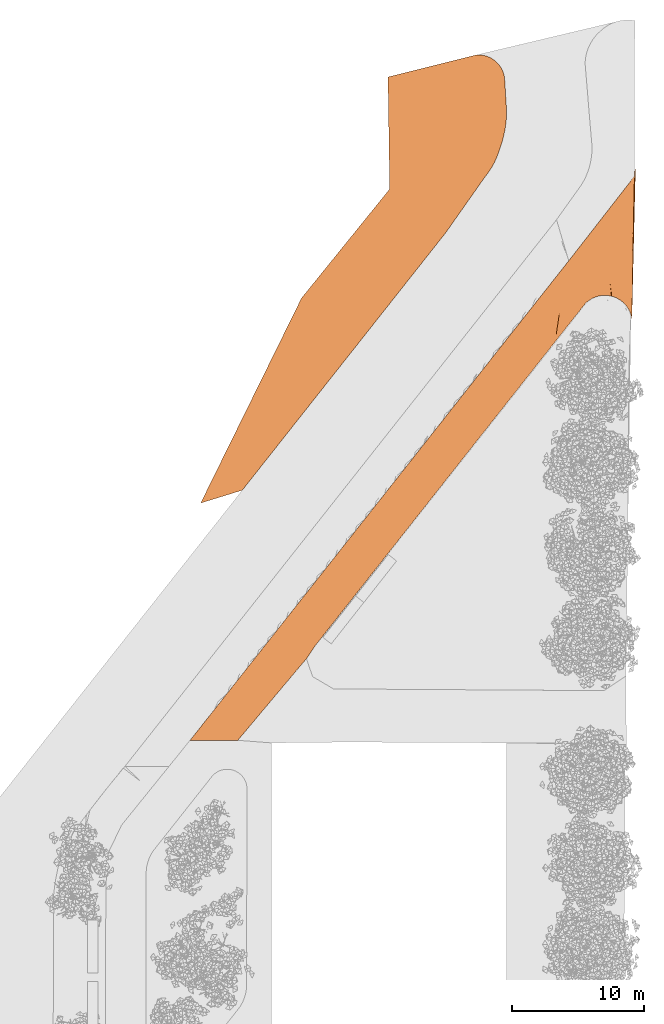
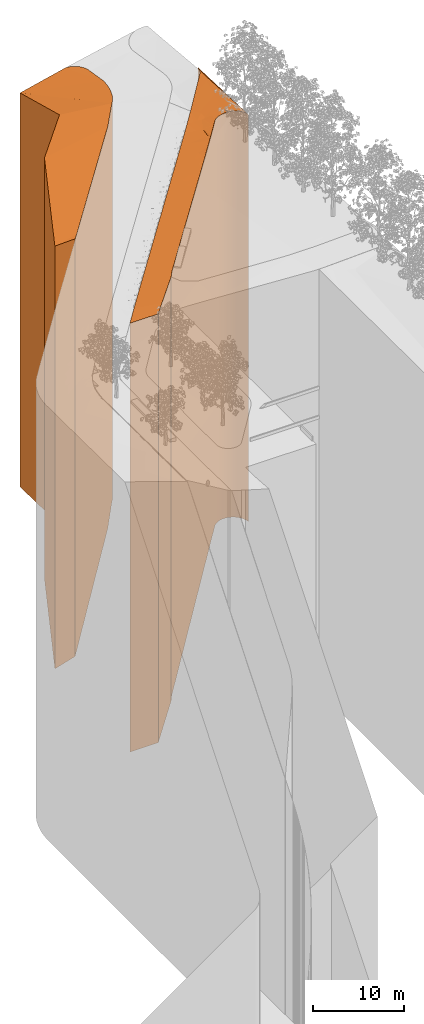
# One storey, part 68 of 69: 2 proxies.
"""IFC2X3 building model written with IfcOpenShell, lengths in millimetres."""

from ifc_helpers import new_model, entity, si_unit, converted_unit, derived_unit, money_unit, direction, frame, origin_with_axes, place, context, subcontext, project, spatial, faceted_brep, material, type_object, element, save


model = new_model("IFC2X3")

# Units and contexts
model_context = context("Model", 3, precision=0.01, world=origin_with_axes(), true_north=direction((0.0, 1.0)))
body_context = subcontext(model_context, "Body", "Model", "MODEL_VIEW")
ifc_project = project(units=[si_unit("LENGTHUNIT", "METRE", prefix="MILLI"), si_unit("AREAUNIT", "SQUARE_METRE"), si_unit("VOLUMEUNIT", "CUBIC_METRE"), converted_unit("PLANEANGLEUNIT", "DEGREE", entity("IfcPlaneAngleMeasure", 0.0174532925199), si_unit("PLANEANGLEUNIT", "RADIAN"), dimensions=[0, 0, 0, 0, 0, 0, 0]), si_unit("SOLIDANGLEUNIT", "STERADIAN"), money_unit("EUR"), converted_unit("TIMEUNIT", "Year", entity("IfcTimeMeasure", 31556926.0), si_unit("TIMEUNIT", "SECOND"), dimensions=[0, 0, 1, 0, 0, 0, 0]), si_unit("MASSUNIT", "GRAM", prefix="KILO"), si_unit("THERMODYNAMICTEMPERATUREUNIT", "DEGREE_CELSIUS"), si_unit("LUMINOUSINTENSITYUNIT", "LUMEN"), si_unit("ENERGYUNIT", "JOULE", prefix="MEGA"), derived_unit("THERMALCONDUCTANCEUNIT", [(si_unit("POWERUNIT", "WATT"), 1), (si_unit("LENGTHUNIT", "METRE"), -1), (si_unit("THERMODYNAMICTEMPERATUREUNIT", "KELVIN"), -1)]), derived_unit("SPECIFICHEATCAPACITYUNIT", [(si_unit("ENERGYUNIT", "JOULE"), 1), (si_unit("MASSUNIT", "GRAM", prefix="KILO"), -1), (si_unit("THERMODYNAMICTEMPERATUREUNIT", "KELVIN"), -1)]), derived_unit("MASSDENSITYUNIT", [(si_unit("MASSUNIT", "GRAM", prefix="KILO"), 1), (si_unit("VOLUMEUNIT", "CUBIC_METRE"), -1)])], contexts=[model_context])

# Site, building, storey
site_placement = place(None, origin_with_axes())
site = spatial("IfcSite", under=ifc_project, at=site_placement, Name="Puškini 31, Narva", CompositionType="ELEMENT")
building_placement = place(site_placement, origin_with_axes())
building = spatial("IfcBuilding", under=site, at=building_placement, Name="Narva Riigigümnaasium", CompositionType="ELEMENT")
storey_placement = place(building_placement, origin_with_axes())
storey = spatial("IfcBuildingStorey", under=building, at=storey_placement, Name="1.korrus 0.00", CompositionType="ELEMENT", Elevation=0.0)

# Proxies
ifc_material_1 = material(Name="Roheala")
building_element_proxy_type_1 = type_object("IfcBuildingElementProxyType", Name="Roheala", PredefinedType="NOTDEFINED")
proxy_1_placement = place(storey_placement, frame((31611.8707437, 272619.101305, -61100.0), z_axis=(0.0, 0.0, 1.0), x_axis=(1.0, 0.0, 0.0)))
element("IfcBuildingElementProxy", 1, at=proxy_1_placement, inside=storey, type_object=building_element_proxy_type_1, material=ifc_material_1, Name="Roheala", context=body_context, shape_type="Brep", body=[
    faceted_brep([(7643.01042222, 15534.0780529, 56800.0), (0.0, 0.0, 57000.0), (3923.36030008, 1946.41217077, 56100.0), (0.0, 0.0, 0.0), (7643.01042222, 15534.0780529, 0.0), (3154.60672992, 973.538749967, 56300.0), (18571.797567, 20484.310174, 54200.0), (3154.60672992, 973.538749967, 0.0), (14326.02825, 23800.2166216, 55250.0), (14326.02825, 23800.2166216, 0.0), (14198.3945724, 32290.449543, 0.0), (20873.4455689, 33961.6074874, 0.0), (21013.8541657, 33970.5579221, 0.0), (21156.6271995, 33968.2335378, 0.0), (21298.8706442, 33955.7297641, 0.0), (21439.85966, 33933.1103174, 0.0), (21578.8757991, 33900.4904613, 0.0), (21715.2106671, 33858.036419, 0.0), (21848.1695328, 33805.9645266, 0.0), (21977.0748683, 33744.5401306, 0.0), (22101.2698015, 33674.0762355, 0.0), (22220.1214635, 33594.9319092, 0.0), (22333.0242136, 33507.5104532, 0.0), (22439.4027251, 33412.257347, 0.0), (22538.7149175, 33309.6579787, 0.0), (22630.4547187, 33200.2351712, 0.0), (22714.1546438, 33084.5465179, 0.0), (22789.3881769, 32963.1815418, 0.0), (22855.7719454, 32836.7586909, 0.0), (22912.9676727, 32705.9221871, 0.0), (22960.6839026, 32571.3387433, 0.0), (22998.677484, 32433.6941658, 0.0), (23026.7548104, 32293.6898599, 0.0), (23035.7638083, 32222.8645576, 0.0), (23198.097869, 29565.9978145, 0.0), (23192.174912, 29410.211524, 0.0), (23170.6462846, 29108.5821718, 0.0), (23139.1039228, 28807.8350565, 0.0), (23097.5826837, 28508.3025297, 0.0), (23046.1284518, 28210.3156006, 0.0), (22984.7980885, 27914.2035704, 0.0), (22913.6593691, 27620.2936684, 0.0), (22832.790908, 27328.9106903, 0.0), (22742.2820718, 27040.3766395, 0.0), (22642.2328807, 26755.0103709, 0.0), (22587.4933891, 26614.0688049, 0.0), (22554.9318008, 26511.9086031, 0.0), (22473.04597, 26288.1630354, 0.0), (22381.800597, 26068.0683961, 0.0), (22281.3579127, 25852.0160055, 0.0), (22171.8965005, 25640.3899967, 0.0), (22053.6109789, 25433.5666332, 0.0), (21926.7116551, 25231.9136393, 0.0), (21791.4241515, 25035.7895467, 0.0), (21647.9890044, 24845.5430568, 0.0), (21572.3251203, 24753.5277389, 0.0), (18571.797567, 20484.310174, 0.0), (3923.36030008, 1946.41217077, 0.0), (14198.3945724, 32290.449543, 53102.6640715), (20873.4455689, 33961.6074874, 53100.0), (21013.8541657, 33970.5579221, 53098.1292942), (21156.6271995, 33968.2335378, 53096.0980664), (21298.8706442, 33955.7297641, 53093.9593277), (21439.85966, 33933.1103174, 53091.7239767), (21578.8757991, 33900.4904613, 53089.403404), (21715.2106671, 33858.036419, 53087.009435), (21848.1695328, 33805.9645266, 53084.5542686), (21977.0748683, 33744.5401306, 53082.0504158), (22101.2698015, 33674.0762355, 53079.5106358), (22220.1214635, 33594.9319092, 53076.9478706), (22333.0242136, 33507.5104532, 53074.3751794), (22439.4027251, 33412.257347, 53071.8056723), (22538.7149175, 33309.6579787, 53069.2524426), (22630.4547187, 33200.2351712, 53066.7285012), (22714.1546438, 33084.5465179, 53064.2467095), (22789.3881769, 32963.1815418, 53061.8197141), (22855.7719454, 32836.7586909, 53059.4598824), (22912.9676727, 32705.9221871, 53057.1792396), (22960.6839026, 32571.3387433, 53054.9894073), (22998.677484, 32433.6941658, 53052.9015443), (23026.7548104, 32293.6898599, 53050.9262901), (23035.7638083, 32222.8645576, 53050.0), (23198.097869, 29565.9978145, 53300.0), (23192.174912, 29410.211524, 53312.7517552), (23170.6462846, 29108.5821718, 53337.6103852), (23139.1039228, 28807.8350565, 53362.5655883), (23097.5826837, 28508.3025297, 53387.5897867), (23046.1284518, 28210.3156006, 53412.6553267), (22984.7980885, 27914.2035704, 53437.7345086), (22913.6593691, 27620.2936684, 53462.7996178), (22832.790908, 27328.9106903, 53487.8229551), (22742.2820718, 27040.3766395, 53512.7768677), (22642.2328807, 26755.0103709, 53537.6337792), (22587.4933891, 26614.0688049, 53550.0), (22554.9318008, 26511.9086031, 53557.4505727), (22473.04597, 26288.1630354, 53574.1267439), (22381.800597, 26068.0683961, 53590.8933658), (22281.3579127, 25852.0160055, 53607.7206281), (22171.8965005, 25640.3899967, 53624.5786125), (22053.6109789, 25433.5666332, 53641.4373461), (21926.7116551, 25231.9136393, 53658.2668548), (21791.4241515, 25035.7895467, 53675.0372161), (21647.9890044, 24845.5430568, 53691.7186131), (21572.3251203, 24753.5277389, 53700.0)], [[[0, 1, 2]], [[3, 1, 0, 4]], [[5, 2, 1]], [[2, 6, 0]], [[7, 5, 1, 3]], [[4, 0, 8, 9]], [[9, 10, 11, 12, 13, 14, 15, 16, 17, 18, 19, 20, 21, 22, 23, 24, 25, 26, 27, 28, 29, 30, 31, 32, 33, 34, 35, 36, 37, 38, 39, 40, 41, 42, 43, 44, 45, 46, 47, 48, 49, 50, 51, 52, 53, 54, 55, 56, 57, 7, 3, 4]], [[57, 2, 5, 7]], [[56, 6, 2, 57]], [[8, 0, 6]], [[9, 8, 58, 10]], [[10, 58, 59, 11]], [[11, 59, 60, 12]], [[12, 60, 61, 13]], [[13, 61, 62, 14]], [[14, 62, 63, 15]], [[15, 63, 64, 16]], [[16, 64, 65, 17]], [[17, 65, 66, 18]], [[18, 66, 67, 19]], [[19, 67, 68, 20]], [[20, 68, 69, 21]], [[21, 69, 70, 22]], [[22, 70, 71, 23]], [[23, 71, 72, 24]], [[24, 72, 73, 25]], [[25, 73, 74, 26]], [[26, 74, 75, 27]], [[27, 75, 76, 28]], [[28, 76, 77, 29]], [[29, 77, 78, 30]], [[30, 78, 79, 31]], [[31, 79, 80, 32]], [[32, 80, 81, 33]], [[33, 81, 82, 34]], [[34, 82, 83, 35]], [[35, 83, 84, 36]], [[36, 84, 85, 37]], [[37, 85, 86, 38]], [[38, 86, 87, 39]], [[39, 87, 88, 40]], [[40, 88, 89, 41]], [[41, 89, 90, 42]], [[42, 90, 91, 43]], [[43, 91, 92, 44]], [[44, 92, 93, 45]], [[45, 93, 94, 46]], [[46, 94, 95, 47]], [[47, 95, 96, 48]], [[48, 96, 97, 49]], [[49, 97, 98, 50]], [[50, 98, 99, 51]], [[51, 99, 100, 52]], [[52, 100, 101, 53]], [[53, 101, 102, 54]], [[54, 102, 103, 55]], [[55, 103, 6, 56]], [[6, 103, 8]], [[8, 103, 58]], [[59, 58, 82]], [[81, 80, 79, 78, 77, 76, 75, 74, 73, 72, 71, 70, 69, 68, 67, 66, 65, 64, 63, 62, 61, 60, 59]], [[82, 81, 59]], [[83, 82, 58]], [[84, 83, 58]], [[85, 84, 58]], [[86, 85, 58]], [[87, 86, 58]], [[88, 87, 58]], [[88, 58, 89]], [[89, 58, 90]], [[90, 58, 91]], [[91, 58, 92]], [[92, 58, 93]], [[95, 94, 93, 96]], [[96, 58, 97]], [[97, 58, 98]], [[98, 58, 99]], [[99, 58, 100]], [[101, 100, 103, 102]], [[100, 58, 103]], [[93, 58, 96]]]),
])
ifc_material_2 = material(Name="Sillutiskivi")
building_element_proxy_type_2 = type_object("IfcBuildingElementProxyType", Name="Sillutiskivi", PredefinedType="NOTDEFINED")
proxy_2_placement = place(storey_placement, frame((30794.9124961, 254614.017781, -61100.0), z_axis=(0.0, 0.0, 1.0), x_axis=(1.0, 0.0, 0.0)))
element("IfcBuildingElementProxy", 2, at=proxy_2_placement, inside=storey, type_object=building_element_proxy_type_2, material=ifc_material_2, Name="Kergliiklustee", context=body_context, shape_type="Brep", body=[
    faceted_brep([(21443.2539943, 27165.8205003, 55100.0), (20700.1498158, 26224.67833, 55200.0), (21687.0737376, 25833.8122749, 55200.0), (23892.3424384, 26195.8718359, 55100.0), (0.0, 7.91829963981, 0.0), (0.0, 7.91829963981, 57800.0), (596.991249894, 764.008302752, 57800.0), (1856.32699617, 2358.95825971, 57700.0), (2865.64953712, 3637.26624708, 57600.0), (3608.75371554, 4578.40841737, 57500.0), (4351.85789397, 5519.55058769, 57400.0), (5094.96207239, 6460.69275798, 57300.0), (5838.06625082, 7401.83492829, 57200.0), (6581.17042865, 8342.97709784, 57100.0), (7324.27460708, 9284.11926816, 57000.0), (8067.37878552, 10225.2614385, 56900.0), (8810.48296393, 11166.4036088, 56800.0), (9553.58714236, 12107.5457791, 56700.0), (10296.6913202, 13048.6879486, 56600.0), (11039.7954986, 13989.8301189, 56500.0), (11782.899677, 14930.9722892, 56400.0), (12526.0038555, 15872.1144595, 56300.0), (13269.1080333, 16813.2566291, 56200.0), (14012.2122117, 17754.3987994, 56100.0), (14755.3163902, 18695.5409697, 56000.0), (15498.4205686, 19636.68314, 55900.0), (16241.524747, 20577.8253103, 55800.0), (16984.6289243, 21518.9674792, 55700.0), (17727.7331027, 22460.1096495, 55600.0), (18470.8372811, 23401.2518198, 55500.0), (19213.9414596, 24342.3939901, 55400.0), (19957.045638, 25283.5361604, 55300.0), (22186.3581727, 28106.9626706, 55000.0), (22929.4623511, 29048.1048409, 54900.0), (23672.5665289, 29989.2470104, 54800.0), (24415.6707074, 30930.3891807, 54700.0), (25158.7748858, 31871.5313511, 54600.0), (25918.9637414, 32834.3112817, 54500.0), (27128.4703228, 34366.1525525, 54400.0), (28713.7542267, 36373.9161706, 54300.0), (28713.7542267, 36373.9161706, 0.0), (21731.2349218, 24580.8777768, 55300.0), (21740.8182236, 24577.0823605, 55300.0), (23599.9572177, 25056.1865733, 55200.0), (23923.2960831, 26183.612807, 55100.0), (24021.6234195, 27380.1154716, 55000.0), (3613.50883325, 0.0, 0.0), (3613.50883325, 0.0, 57800.0), (3726.95734352, 135.108138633, 57800.0), (4124.72200244, 1903.17249305, 57700.0), (6497.33101046, 3434.40249308, 57500.0), (5718.83582811, 2507.27674439, 57600.0), (7257.86005224, 4368.64363719, 57400.0), (7999.69551734, 5310.28827454, 57300.0), (7290.3634443, 6826.66022292, 57200.0), (8999.17883821, 7385.33751788, 57100.0), (10225.2019104, 8135.22218689, 57000.0), (9005.94701065, 7382.65701909, 57100.0), (9483.36644615, 7193.57754943, 57100.0), (10967.0373752, 9076.86682523, 56900.0), (11708.87284, 10018.5114626, 56800.0), (12450.7083041, 10960.1560992, 56700.0), (12735.2842804, 12082.8959654, 56600.0), (12833.6116164, 13279.3986301, 56500.0), (12931.938953, 14475.9012956, 56400.0), (14291.2809682, 15172.985694, 56300.0), (14296.6918528, 15170.8427414, 56300.0), (14502.9637535, 16324.5945264, 56200.0), (16445.8886028, 16790.5539974, 56100.0), (16464.6215463, 16783.1349131, 56100.0), (16562.9488849, 17979.6375775, 56000.0), (16661.276221, 19176.1402421, 55900.0), (18011.2676476, 19876.9278926, 55800.0), (18018.7550379, 19873.962551, 55800.0), (18095.0187462, 21079.2034006, 55700.0), (20169.1474887, 21493.2002561, 55600.0), (20193.9588147, 21483.3738596, 55600.0), (20292.2861514, 22679.8765251, 55500.0), (20390.6134893, 23876.3791896, 55400.0), (25011.7983281, 28223.4065719, 54900.0), (24218.2780936, 29773.1208007, 54800.0), (25279.1287215, 30588.4211522, 54700.0), (27615.4735005, 30898.568718, 54600.0), (26143.0436405, 32782.2935653, 54500.0), (26142.678835, 32782.3782515, 54500.0), (27847.254833, 34285.0015881, 54400.0), (30705.4237025, 38933.6969241, 54234.4630377), (32697.0931781, 41493.4776773, 54100.0), (32697.0931781, 41493.4776773, 0.0), (33346.0962454, 42327.6048161, 0.0), (33393.3066972, 42401.0434695, 0.0), (33479.1088794, 42553.1165961, 0.0), (33556.007314, 42709.8803707, 0.0), (33623.746552, 42870.81404, 0.0), (33682.1015707, 43035.3829985, 0.0), (33730.8785204, 43203.0405645, 0.0), (33769.9153691, 43373.2297967, 0.0), (33782.277642, 43446.3671972, 0.0), (33501.7560523, 31895.284491, 0.0), (33494.2091104, 31967.0166304, 0.0), (33469.1444322, 32109.0785414, 0.0), (33434.2310723, 32249.0459732, 0.0), (33389.6391251, 32386.2370184, 0.0), (33335.5858382, 32519.9832961, 0.0), (33272.3345536, 32649.633208, 0.0), (33200.1934253, 32774.5551126, 0.0), (33119.5139176, 32894.140403, 0.0), (33030.689093, 33007.8064717, 0.0), (32934.151697, 33114.999549, 0.0), (32883.3134058, 33164.0825154, 0.0), (32831.4590315, 33214.2181317, 0.0), (32721.0083445, 33307.010752, 0.0), (32604.3538239, 33391.8726837, 0.0), (32482.0637987, 33468.3904881, 0.0), (32354.7340536, 33536.1913779, 0.0), (32222.9849264, 33594.9450342, 0.0), (32087.4582856, 33644.365215, 0.0), (31948.8144033, 33684.2111501, 0.0), (31807.7287386, 33714.2887142, 0.0), (31664.8886468, 33734.4513725, 0.0), (31520.9900302, 33744.6008943, 0.0), (31376.7339486, 33744.6878324, 0.0), (31232.823203, 33734.7117632, 0.0), (31089.9589123, 33714.721289, 0.0), (31010.621294, 33697.8875896, 0.0), (30940.1260409, 33682.6273748, 0.0), (30801.6079782, 33642.3462908, 0.0), (30666.2372049, 33592.5007979, 0.0), (30534.6732338, 33533.3337384, 0.0), (30407.5570313, 33465.1333681, 0.0), (30285.5078949, 33388.2319525, 0.0), (30169.1204356, 33303.0041475, 0.0), (30139.1278574, 33277.3078702, 0.0), (30083.3195718, 33231.6144339, 0.0), (29963.799767, 33115.9983735, 0.0), (29304.4028752, 32280.8716701, 0.0), (13255.8026044, 11955.3062844, 0.0), (9488.35203977, 7183.82705909, 0.0), (8834.81261237, 6207.36700037, 0.0), (8371.63900237, 5666.55400751, 0.0), (22087.6083552, 23140.7955004, 55400.0), (23594.520205, 25049.3005923, 55200.0), (25074.5704043, 26923.7853818, 55000.0), (8371.63900237, 5666.55400751, 57259.706256), (4940.34064627, 1580.15099632, 57700.0), (8834.81261237, 6207.36700037, 57200.0), (9488.35203977, 7183.82705909, 57100.0), (13255.8026044, 11955.3062844, 56600.0), (13992.63489, 12888.5049776, 56500.0), (14728.843506, 13820.9137926, 56400.0), (15464.7094275, 14752.8885848, 56300.0), (16200.8639904, 15685.2289416, 56200.0), (16936.509897, 16616.9250848, 56100.0), (17672.9002054, 17549.5640134, 56000.0), (18408.9862571, 18481.8176007, 55900.0), (19881.0991074, 20346.2497312, 55700.0), (21353.5208838, 22211.0731168, 55500.0), (26558.7577887, 28803.5099196, 54857.0760645), (27301.1012133, 29743.6884747, 54800.0), (26174.9331808, 32777.562038, 54500.0), (27223.5468542, 32551.0079701, 54500.0), (28361.7026996, 34284.2659862, 54400.0), (29516.1794522, 35664.1360574, 54400.0), (33188.6800897, 40577.8881195, 54200.0), (33346.0962454, 42327.6048161, 54100.0), (33393.3066972, 42401.0434695, 54100.0), (33479.1088794, 42553.1165961, 54100.0), (33556.007314, 42709.8803707, 54100.0), (33623.746552, 42870.81404, 54100.0), (33682.1015707, 43035.3829985, 54100.0), (33730.8785204, 43203.0405645, 54100.0), (33769.9153691, 43373.2297967, 54100.0), (33782.277642, 43446.3671972, 54100.0), (33501.7560523, 31895.284491, 54900.0), (33494.2091104, 31967.0166304, 54895.1975104), (33469.1444322, 32109.0785414, 54885.3723335), (33434.2310723, 32249.0459732, 54875.3748262), (33389.6391251, 32386.2370184, 54865.2536953), (33335.5858382, 32519.9832961, 54855.0582499), (33272.3345536, 32649.633208, 54844.8381612), (33200.1934253, 32774.5551126, 54834.6432204), (33119.5139176, 32894.140403, 54824.5230964), (33030.689093, 33007.8064717, 54814.5270932), (32934.151697, 33114.999549, 54804.7039106), (32883.3134058, 33164.0825154, 54800.0), (32831.4590315, 33214.2181317, 54792.5200771), (32721.0083445, 33307.010752, 54777.0388977), (32604.3538239, 33391.8726837, 54761.1118073), (32482.0637987, 33468.3904881, 54744.8164011), (32354.7340536, 33536.1913779, 54728.2320688), (32222.9849264, 33594.9450342, 54711.4396074), (32087.4582856, 33644.365215, 54694.5208283), (31948.8144033, 33684.2111501, 54677.5581579), (31807.7287386, 33714.2887142, 54660.6342368), (31664.8886468, 33734.4513725, 54643.8315165), (31520.9900302, 33744.6008943, 54627.2318582), (31376.7339486, 33744.6878324, 54610.9161338), (31232.823203, 33734.7117632, 54594.9638319), (31089.9589123, 33714.721289, 54579.4526704), (31010.621294, 33697.8875896, 54571.0235453), (30940.1260409, 33682.6273748, 54572.859296), (30801.6079782, 33642.3462908, 54576.5835644), (30666.2372049, 33592.5007979, 54580.3424556), (30534.6732338, 33533.3337384, 54584.1176568), (30407.5570313, 33465.1333681, 54587.8907755), (30285.5078949, 33388.2319525, 54591.6434295), (30169.1204356, 33303.0041475, 54595.3573362), (30139.1278574, 33277.3078702, 54597.457986), (30083.3195718, 33231.6144339, 54597.457986), (29963.799767, 33115.9983735, 54600.0), (29304.4028752, 32280.8716701, 54613.9000269), (29294.0351518, 32267.7409399, 54613.9000269), (28058.209156, 30702.5663042, 54712.1128766), (25806.6911031, 27851.0168463, 54981.2692275), (24319.6730009, 25967.7072021, 55100.0), (22847.6315621, 24103.3655144, 55300.0), (20618.0756101, 21279.6310753, 55600.0), (19145.0999777, 19414.1062306, 55800.0), (25025.0834468, 28218.1450703, 54900.0), (27776.2834437, 30834.8807811, 54600.0), (27229.7775466, 32549.6618232, 54500.0), (28015.0711345, 32469.4525711, 54500.0), (29446.394645, 35318.5965762, 54400.0), (32516.3496506, 37650.5815373, 54400.0), (32852.5148703, 39114.2348289, 54300.0), (33472.4327283, 40830.5889404, 54200.0), (33524.8453093, 42041.5414111, 54100.0), (33619.4295223, 42125.7750174, 54100.0), (33678.4628401, 42146.8617053, 54100.0), (33649.5326811, 40893.8490033, 54200.0), (33475.9517274, 33375.7727904, 54800.0), (32737.4487576, 34354.6585511, 54700.0), (31976.2845418, 33676.7905932, 54700.0), (31844.0192116, 34723.2749551, 54600.0), (31121.0299032, 34244.5758319, 54600.0), (31010.6242424, 33697.9021885, 54571.0235453), (30179.0350633, 34263.2769818, 54500.0), (30139.1362139, 33277.5143288, 54597.457986), (29302.1905945, 34253.9779772, 54400.0), (29248.9499033, 32358.3392029, 54613.9000269), (28934.2679452, 34248.5799604, 54400.0), (29047.2317213, 34241.539316, 54400.0), (29410.0675433, 34421.0794613, 54400.0), (30318.6046777, 34954.3559451, 54500.0), (32180.1844312, 36186.9282467, 54500.0), (33325.4359341, 39535.4028626, 54300.0), (33620.6025222, 39640.8363013, 54300.0), (33504.8818863, 34628.7854924, 54700.0), (33591.6723633, 38387.8235993, 54400.0), (33562.7422043, 37134.8108973, 54500.0), (33533.8120452, 35881.7981944, 54600.0), (33031.4423458, 36945.0307068, 54500.0), (33178.43914, 38240.2167847, 54400.0), (32884.4455517, 35649.8446289, 54600.0)], [[[0, 1, 2, 3]], [[4, 5, 6, 7, 8, 9, 10, 11, 12, 13, 14, 15, 16, 17, 18, 19, 20, 21, 22, 23, 24, 25, 26, 27, 28, 29, 30, 31, 1, 0, 32, 33, 34, 35, 36, 37, 38, 39, 40]], [[41, 42, 2, 1, 31]], [[3, 2, 43]], [[3, 44, 45, 32, 0]], [[46, 47, 5, 4]], [[5, 47, 48, 6]], [[6, 48, 49, 7]], [[49, 8, 7]], [[50, 9, 8, 51]], [[52, 10, 9, 50]], [[53, 11, 10, 52]], [[53, 54, 12, 11]], [[12, 54, 55, 13]], [[56, 14, 13, 55, 57, 58]], [[59, 15, 14, 56]], [[59, 60, 16, 15]], [[61, 17, 16, 60]], [[62, 18, 17, 61]], [[62, 63, 19, 18]], [[63, 64, 20, 19]], [[64, 65, 21, 20]], [[65, 66, 67, 22, 21]], [[22, 67, 68, 23]], [[68, 69, 70, 24, 23]], [[70, 71, 25, 24]], [[71, 72, 26, 25]], [[72, 73, 74, 27, 26]], [[28, 27, 74, 75]], [[75, 76, 77, 29, 28]], [[77, 78, 30, 29]], [[78, 41, 31, 30]], [[45, 79, 33, 32]], [[79, 80, 34, 33]], [[81, 35, 34, 80]], [[36, 35, 81, 82]], [[37, 36, 83, 84]], [[37, 84, 38]], [[38, 85, 39]], [[40, 39, 86, 87, 88]], [[40, 88, 89, 90, 91, 92, 93, 94, 95, 96, 97, 98, 99, 100, 101, 102, 103, 104, 105, 106, 107, 108, 109, 110, 111, 112, 113, 114, 115, 116, 117, 118, 119, 120, 121, 122, 123, 124, 125, 126, 127, 128, 129, 130, 131, 132, 133, 134, 135, 136, 137, 138, 139, 46, 4]], [[41, 140, 42]], [[141, 2, 42]], [[141, 43, 2]], [[3, 43, 44]], [[142, 45, 44]], [[139, 143, 50, 51, 144, 48, 47, 46]], [[144, 49, 48]], [[8, 49, 144, 51]], [[143, 52, 50]], [[143, 53, 52]], [[143, 54, 53]], [[55, 54, 145]], [[55, 145, 57]], [[146, 58, 57]], [[56, 58, 146, 61, 60, 59]], [[147, 62, 61]], [[147, 63, 62]], [[148, 64, 63]], [[149, 65, 64]], [[149, 66, 65]], [[150, 67, 66]], [[151, 68, 67]], [[151, 69, 68]], [[152, 70, 69]], [[153, 71, 70]], [[72, 71, 154]], [[72, 154, 73]], [[155, 74, 73]], [[155, 75, 74]], [[75, 155, 76]], [[156, 77, 76]], [[140, 78, 77]], [[41, 78, 140]], [[79, 45, 142]], [[79, 157, 80]], [[81, 80, 157]], [[158, 82, 81]], [[36, 82, 159]], [[83, 36, 159]], [[83, 159, 84]], [[38, 84, 159]], [[85, 38, 160]], [[85, 161, 39]], [[39, 162, 86]], [[87, 86, 163]], [[88, 87, 164, 89]], [[89, 164, 165, 90]], [[90, 165, 166, 91]], [[91, 166, 167, 92]], [[92, 167, 168, 93]], [[93, 168, 169, 94]], [[94, 169, 170, 95]], [[95, 170, 171, 96]], [[96, 171, 172, 97]], [[97, 172, 173, 98]], [[98, 173, 174, 99]], [[99, 174, 175, 100]], [[100, 175, 176, 101]], [[101, 176, 177, 102]], [[102, 177, 178, 103]], [[103, 178, 179, 104]], [[104, 179, 180, 105]], [[105, 180, 181, 106]], [[106, 181, 182, 107]], [[107, 182, 183, 108]], [[108, 183, 184, 109]], [[109, 184, 185, 110]], [[110, 185, 186, 111]], [[111, 186, 187, 112]], [[112, 187, 188, 113]], [[113, 188, 189, 114]], [[114, 189, 190, 115]], [[115, 190, 191, 116]], [[116, 191, 192, 117]], [[117, 192, 193, 118]], [[118, 193, 194, 119]], [[119, 194, 195, 120]], [[120, 195, 196, 121]], [[121, 196, 197, 122]], [[122, 197, 198, 123]], [[123, 198, 199, 124]], [[124, 199, 200, 125]], [[125, 200, 201, 126]], [[126, 201, 202, 127]], [[127, 202, 203, 128]], [[128, 203, 204, 129]], [[129, 204, 205, 130]], [[130, 205, 206, 131]], [[131, 206, 207, 132]], [[132, 207, 208, 133]], [[133, 208, 209, 134]], [[134, 209, 210, 135]], [[135, 210, 211, 212, 158, 157, 213, 142, 214, 43, 141, 215, 140, 156, 216, 155, 217, 154, 153, 152, 151, 150, 149, 148, 147, 136]], [[136, 147, 146, 137]], [[137, 146, 145, 138]], [[138, 145, 143, 139]], [[215, 42, 140]], [[215, 141, 42]], [[214, 44, 43]], [[142, 44, 214]], [[145, 54, 143]], [[146, 57, 145]], [[61, 146, 147]], [[148, 63, 147]], [[149, 64, 148]], [[149, 150, 66]], [[150, 151, 67]], [[151, 152, 69]], [[153, 70, 152]], [[154, 71, 153]], [[217, 73, 154]], [[217, 155, 73]], [[216, 76, 155]], [[140, 77, 156]], [[156, 76, 216]], [[79, 142, 218]], [[79, 218, 157]], [[158, 81, 157]], [[219, 82, 158]], [[160, 159, 82, 220]], [[159, 160, 38]], [[160, 220, 85]], [[161, 85, 221]], [[222, 39, 161]], [[162, 39, 222]], [[86, 162, 223]], [[86, 224, 163]], [[163, 225, 87]], [[171, 170, 169, 168, 167, 166, 165, 164, 87, 226, 227, 228, 172]], [[229, 173, 172]], [[174, 173, 230]], [[175, 174, 230]], [[175, 230, 176]], [[176, 230, 177]], [[177, 230, 178]], [[178, 230, 179]], [[179, 230, 180]], [[180, 230, 181]], [[181, 230, 182]], [[182, 230, 183]], [[183, 230, 184]], [[184, 230, 185]], [[185, 230, 186]], [[187, 186, 231]], [[188, 187, 231]], [[189, 188, 231]], [[189, 231, 190]], [[190, 231, 191]], [[232, 192, 191]], [[193, 192, 233]], [[194, 193, 233]], [[195, 194, 234]], [[196, 195, 234]], [[197, 196, 234]], [[198, 197, 234]], [[199, 198, 235]], [[199, 235, 200]], [[200, 234, 201]], [[202, 201, 236]], [[203, 202, 236]], [[203, 236, 204]], [[204, 236, 205]], [[205, 236, 206]], [[206, 237, 207]], [[207, 237, 208]], [[208, 238, 209]], [[210, 209, 239]], [[210, 239, 211]], [[211, 221, 212]], [[212, 219, 158]], [[213, 157, 218]], [[213, 218, 142]], [[219, 221, 82]], [[220, 82, 221]], [[220, 221, 85]], [[161, 221, 240]], [[241, 238, 242, 222, 161, 240]], [[162, 222, 243]], [[244, 223, 162, 243]], [[86, 223, 224]], [[224, 245, 163]], [[163, 246, 225]], [[226, 87, 225]], [[227, 226, 228]], [[228, 229, 172]], [[247, 230, 173, 229, 246, 248, 249, 250]], [[231, 186, 230]], [[231, 232, 191]], [[192, 232, 233]], [[233, 234, 194]], [[234, 235, 198]], [[234, 200, 235]], [[236, 201, 234]], [[206, 236, 237]], [[208, 237, 238]], [[241, 209, 238]], [[241, 239, 209]], [[221, 211, 239]], [[212, 221, 219]], [[221, 239, 240]], [[242, 238, 236]], [[222, 242, 243]], [[240, 239, 241]], [[251, 223, 244]], [[243, 234, 233, 244]], [[252, 224, 223]], [[224, 248, 245]], [[245, 246, 163]], [[229, 225, 246]], [[225, 229, 226]], [[228, 226, 229]], [[247, 231, 230]], [[246, 245, 248]], [[248, 252, 249]], [[250, 249, 251, 253]], [[247, 250, 253, 231]], [[233, 232, 231, 253]], [[243, 236, 234]], [[238, 237, 236]], [[242, 236, 243]], [[223, 251, 249]], [[244, 233, 253, 251]], [[248, 224, 252]], [[223, 249, 252]]]),
])

save(model, "model.ifc")
